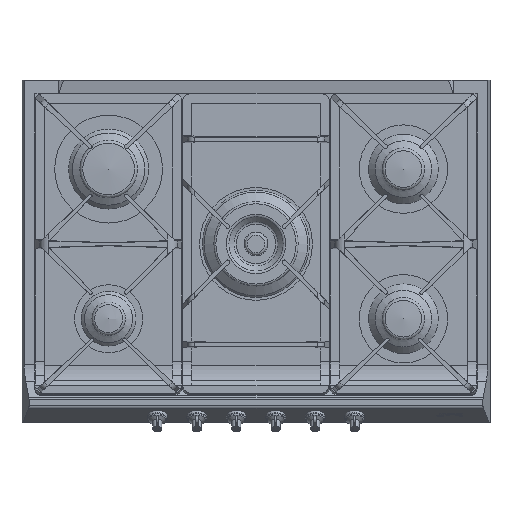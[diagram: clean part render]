
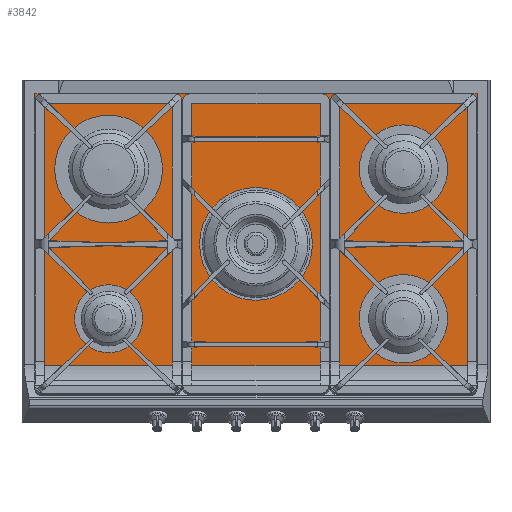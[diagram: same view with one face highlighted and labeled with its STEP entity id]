
A CAD part, top view. The second image highlights one B-rep face of the part: STEP entity #3842.
In plain terms, the highlighted planar face has unit normal (0, 0, 1).
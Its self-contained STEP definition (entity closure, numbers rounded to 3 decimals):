
#1273=LINE('',#20286,#2285);
#1274=LINE('',#20298,#2286);
#1275=LINE('',#20300,#2287);
#1276=LINE('',#20302,#2288);
#2285=VECTOR('',#16392,1.);
#2286=VECTOR('',#16405,1.);
#2287=VECTOR('',#16406,1.);
#2288=VECTOR('',#16407,1.);
#3137=FACE_BOUND('',#5648,.T.);
#3138=FACE_BOUND('',#5649,.T.);
#3139=FACE_BOUND('',#5650,.T.);
#3140=FACE_BOUND('',#5651,.T.);
#3141=FACE_BOUND('',#5652,.T.);
#3142=FACE_BOUND('',#5653,.T.);
#3842=ADVANCED_FACE('',(#3137,#3138,#3139,#3140,#3141,#3142),#4278,.F.);
#4278=PLANE('',#13056);
#5648=EDGE_LOOP('',(#8737));
#5649=EDGE_LOOP('',(#8738));
#5650=EDGE_LOOP('',(#8739));
#5651=EDGE_LOOP('',(#8740));
#5652=EDGE_LOOP('',(#8741));
#5653=EDGE_LOOP('',(#8742,#8743,#8744,#8745));
#8737=ORIENTED_EDGE('',*,*,#11486,.F.);
#8738=ORIENTED_EDGE('',*,*,#11487,.F.);
#8739=ORIENTED_EDGE('',*,*,#11488,.F.);
#8740=ORIENTED_EDGE('',*,*,#11489,.F.);
#8741=ORIENTED_EDGE('',*,*,#11490,.F.);
#8742=ORIENTED_EDGE('',*,*,#11491,.F.);
#8743=ORIENTED_EDGE('',*,*,#11485,.F.);
#8744=ORIENTED_EDGE('',*,*,#11492,.F.);
#8745=ORIENTED_EDGE('',*,*,#11493,.T.);
#9922=VERTEX_POINT('',#20283);
#9923=VERTEX_POINT('',#20285);
#9924=VERTEX_POINT('',#20289);
#9925=VERTEX_POINT('',#20291);
#9926=VERTEX_POINT('',#20293);
#9927=VERTEX_POINT('',#20295);
#9928=VERTEX_POINT('',#20297);
#9929=VERTEX_POINT('',#20299);
#9930=VERTEX_POINT('',#20301);
#11485=EDGE_CURVE('',#9923,#9922,#1273,.T.);
#11486=EDGE_CURVE('',#9924,#9924,#11885,.T.);
#11487=EDGE_CURVE('',#9925,#9925,#11886,.T.);
#11488=EDGE_CURVE('',#9926,#9926,#11887,.T.);
#11489=EDGE_CURVE('',#9927,#9927,#11888,.T.);
#11490=EDGE_CURVE('',#9928,#9928,#11889,.T.);
#11491=EDGE_CURVE('',#9922,#9929,#1274,.T.);
#11492=EDGE_CURVE('',#9930,#9923,#1275,.T.);
#11493=EDGE_CURVE('',#9930,#9929,#1276,.T.);
#11885=CIRCLE('',#13051,79.25);
#11886=CIRCLE('',#13052,50.);
#11887=CIRCLE('',#13053,83.);
#11888=CIRCLE('',#13054,65.);
#11889=CIRCLE('',#13055,65.);
#13051=AXIS2_PLACEMENT_3D('',#20288,#16395,#16396);
#13052=AXIS2_PLACEMENT_3D('',#20290,#16397,#16398);
#13053=AXIS2_PLACEMENT_3D('',#20292,#16399,#16400);
#13054=AXIS2_PLACEMENT_3D('',#20294,#16401,#16402);
#13055=AXIS2_PLACEMENT_3D('',#20296,#16403,#16404);
#13056=AXIS2_PLACEMENT_3D('',#20303,#16408,#16409);
#16392=DIRECTION('',(-1.,0.,0.));
#16395=DIRECTION('',(0.,0.,1.));
#16396=DIRECTION('',(-1.,0.,0.));
#16397=DIRECTION('',(0.,0.,1.));
#16398=DIRECTION('',(-1.,0.,0.));
#16399=DIRECTION('',(0.,0.,1.));
#16400=DIRECTION('',(-1.,0.,0.));
#16401=DIRECTION('',(0.,0.,1.));
#16402=DIRECTION('',(-1.,0.,0.));
#16403=DIRECTION('',(0.,0.,1.));
#16404=DIRECTION('',(-1.,0.,0.));
#16405=DIRECTION('',(0.,1.,0.));
#16406=DIRECTION('',(0.,-1.,0.));
#16407=DIRECTION('',(-1.,0.,0.));
#16408=DIRECTION('',(0.,0.,-1.));
#16409=DIRECTION('',(0.,1.,0.));
#20283=CARTESIAN_POINT('',(-541.7,-69.356,-8.2));
#20285=CARTESIAN_POINT('',(108.3,-69.356,-8.2));
#20286=CARTESIAN_POINT('',(-215.7,-69.356,-8.2));
#20288=CARTESIAN_POINT('',(-433.4,220.,-8.2));
#20289=CARTESIAN_POINT('',(-512.65,220.,-8.2));
#20290=CARTESIAN_POINT('',(-433.4,0.,-8.2));
#20291=CARTESIAN_POINT('',(-483.4,0.,-8.2));
#20292=CARTESIAN_POINT('',(-216.7,110.,-8.2));
#20293=CARTESIAN_POINT('',(-299.7,110.,-8.2));
#20294=CARTESIAN_POINT('',(0.,0.,
-8.2));
#20295=CARTESIAN_POINT('',(-65.,0.,-8.2));
#20296=CARTESIAN_POINT('',(0.,220.,-8.2));
#20297=CARTESIAN_POINT('',(-65.,220.,-8.2));
#20298=CARTESIAN_POINT('',(-541.7,-69.356,-8.2));
#20299=CARTESIAN_POINT('',(-541.7,330.5,-8.2));
#20300=CARTESIAN_POINT('',(108.3,-69.356,-8.2));
#20301=CARTESIAN_POINT('',(108.3,330.5,-8.2));
#20302=CARTESIAN_POINT('',(-215.7,330.5,-8.2));
#20303=CARTESIAN_POINT('',(-215.7,-69.356,-8.2));
